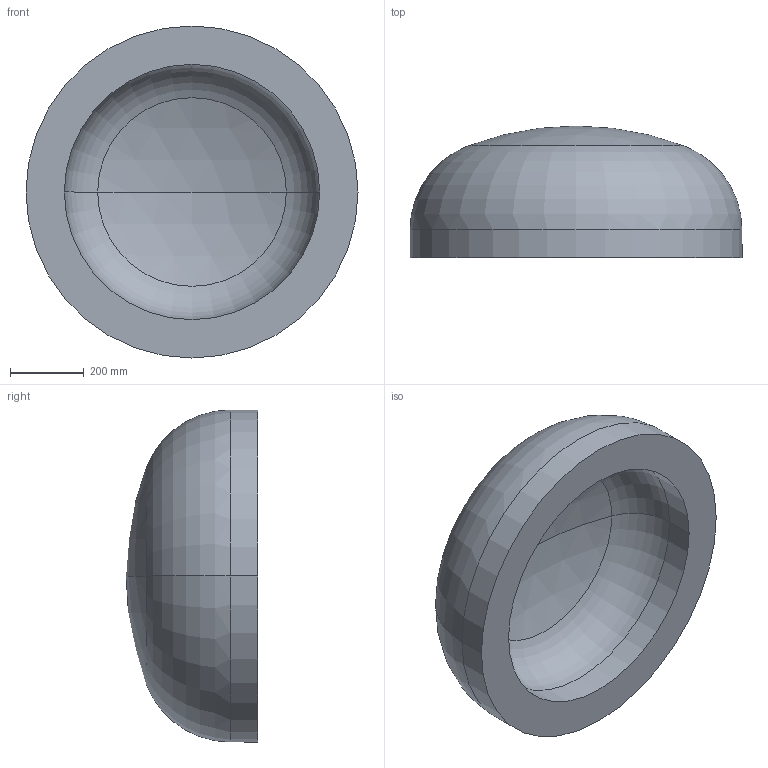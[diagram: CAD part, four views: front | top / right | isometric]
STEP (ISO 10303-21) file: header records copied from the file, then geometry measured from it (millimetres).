
FILE_DESCRIPTION (( 'STEP AP203' ), '1' );
FILE_NAME ('DIN 28013 Korbbogenform_-_Boden DIN 28013 - 900 x 75 - I - s=104.step', '2016-07-01T08:38:46', ( '' ), ( '' ), 'SwSTEP 2.0', 'SolidWorks 2013', '' );
FILE_SCHEMA (( 'CONFIG_CONTROL_DESIGN' ));
Length unit declared in the file: millimetre
Products named in the file (1): DIN 28013 Korbbogenform_-_Boden DIN 28013 - 900 x 75 - I - s=104
Bounding box: 900 x 356.82 x 900 mm (x, y, z)
Volume: 99217654.8 mm3; surface area: 2190758.2 mm2
Topology: 1 solids, 1 shells, 13 faces, 24 edges, 14 vertices
Faces by surface type: torus 4, cylinder 4, sphere 4, plane 1
Entity records: 407 total; most frequent: DIRECTION 72, CARTESIAN_POINT 52, ORIENTED_EDGE 48, AXIS2_PLACEMENT_3D 34, EDGE_CURVE 24, CIRCLE 20, EDGE_LOOP 14, VERTEX_POINT 14
